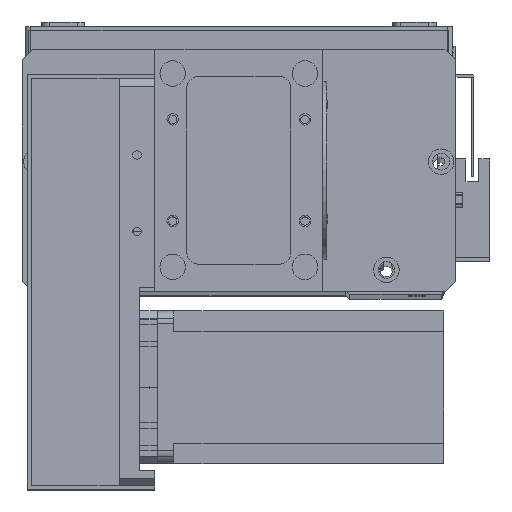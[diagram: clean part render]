
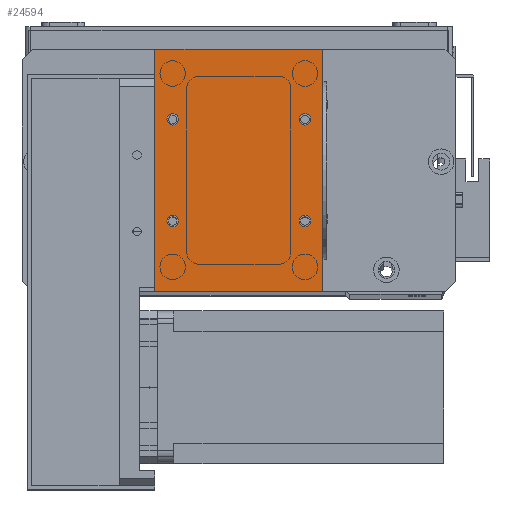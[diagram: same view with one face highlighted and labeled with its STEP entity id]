
A CAD part, top view. The second image highlights one B-rep face of the part: STEP entity #24594.
In plain terms, the highlighted planar face has unit normal (0, 0, 1).
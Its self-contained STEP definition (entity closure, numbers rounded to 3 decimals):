
#529 = VERTEX_POINT ( 'NONE', #24953 ) ;
#1394 = CARTESIAN_POINT ( 'NONE',  ( 56.75, 67.5, 2. ) ) ;
#1548 = FACE_OUTER_BOUND ( 'NONE', #21294, .T. ) ;
#1709 = DIRECTION ( 'NONE',  ( 1., 0., 0. ) ) ;
#2648 = ORIENTED_EDGE ( 'NONE', *, *, #17341, .F. ) ;
#3239 = AXIS2_PLACEMENT_3D ( 'NONE', #18030, #3357, #20490 ) ;
#3357 = DIRECTION ( 'NONE',  ( 0., 0., 1. ) ) ;
#3514 = CIRCLE ( 'NONE', #20501, 2.25 ) ;
#3669 = CARTESIAN_POINT ( 'NONE',  ( 59., 27.5, 2. ) ) ;
#4034 = EDGE_CURVE ( 'NONE', #30911, #5379, #14796, .T. ) ;
#4405 = ORIENTED_EDGE ( 'NONE', *, *, #13611, .F. ) ;
#4543 = CARTESIAN_POINT ( 'NONE',  ( 7., 67.5, 2. ) ) ;
#4552 = CARTESIAN_POINT ( 'NONE',  ( 7., 67.5, 2. ) ) ;
#4588 = AXIS2_PLACEMENT_3D ( 'NONE', #22930, #8265, #25395 ) ;
#5198 = DIRECTION ( 'NONE',  ( 0., 0., -1. ) ) ;
#5329 = EDGE_CURVE ( 'NONE', #26779, #18997, #18228, .T. ) ;
#5379 = VERTEX_POINT ( 'NONE', #18125 ) ;
#6128 = DIRECTION ( 'NONE',  ( 1., 0., 0. ) ) ;
#6927 = EDGE_CURVE ( 'NONE', #17379, #19901, #7745, .T. ) ;
#6976 = DIRECTION ( 'NONE',  ( 1., 0., 0. ) ) ;
#6987 = DIRECTION ( 'NONE',  ( 1., 0., 0. ) ) ;
#7082 = DIRECTION ( 'NONE',  ( 1., 0., 0. ) ) ;
#7508 = EDGE_CURVE ( 'NONE', #24089, #30911, #21469, .T. ) ;
#7745 = CIRCLE ( 'NONE', #14347, 2.25 ) ;
#8052 = FACE_BOUND ( 'NONE', #26315, .T. ) ;
#8083 = CARTESIAN_POINT ( 'NONE',  ( 4.75, 67.5, 2. ) ) ;
#8265 = DIRECTION ( 'NONE',  ( 0., 0., 1. ) ) ;
#8379 = VECTOR ( 'NONE', #29556, 1000. ) ;
#9544 = CARTESIAN_POINT ( 'NONE',  ( 0., 0., 2. ) ) ;
#10873 = LINE ( 'NONE', #9544, #29669 ) ;
#11169 = EDGE_CURVE ( 'NONE', #17738, #24089, #10873, .T. ) ;
#11554 = DIRECTION ( 'NONE',  ( 0., 0., 1. ) ) ;
#13611 = EDGE_CURVE ( 'NONE', #19818, #15406, #21125, .T. ) ;
#13714 = CARTESIAN_POINT ( 'NONE',  ( 61.25, 27.5, 2. ) ) ;
#14056 = VERTEX_POINT ( 'NONE', #25142 ) ;
#14121 = ORIENTED_EDGE ( 'NONE', *, *, #23822, .F. ) ;
#14315 = AXIS2_PLACEMENT_3D ( 'NONE', #4543, #21667, #6976 ) ;
#14347 = AXIS2_PLACEMENT_3D ( 'NONE', #4552, #21684, #6987 ) ;
#14527 = ORIENTED_EDGE ( 'NONE', *, *, #11169, .T. ) ;
#14572 = FACE_BOUND ( 'NONE', #18895, .T. ) ;
#14674 = DIRECTION ( 'NONE',  ( 0., 0., 1. ) ) ;
#14796 = LINE ( 'NONE', #25148, #27822 ) ;
#15053 = CARTESIAN_POINT ( 'NONE',  ( 56.75, 27.5, 2. ) ) ;
#15280 = CIRCLE ( 'NONE', #26686, 2.25 ) ;
#15334 = FACE_BOUND ( 'NONE', #19388, .T. ) ;
#15406 = VERTEX_POINT ( 'NONE', #13714 ) ;
#16195 = EDGE_LOOP ( 'NONE', ( #28870, #24117 ) ) ;
#16389 = DIRECTION ( 'NONE',  ( 0., 0., 1. ) ) ;
#17341 = EDGE_CURVE ( 'NONE', #19901, #17379, #24784, .T. ) ;
#17379 = VERTEX_POINT ( 'NONE', #29133 ) ;
#17738 = VERTEX_POINT ( 'NONE', #18317 ) ;
#17876 = DIRECTION ( 'NONE',  ( -1., 0., 0. ) ) ;
#18030 = CARTESIAN_POINT ( 'NONE',  ( 59., 67.5, 2. ) ) ;
#18100 = CARTESIAN_POINT ( 'NONE',  ( 66., 0., 2. ) ) ;
#18125 = CARTESIAN_POINT ( 'NONE',  ( 0., 95., 2. ) ) ;
#18228 = CIRCLE ( 'NONE', #3239, 2.25 ) ;
#18317 = CARTESIAN_POINT ( 'NONE',  ( 0., 0., 2. ) ) ;
#18895 = EDGE_LOOP ( 'NONE', ( #21062, #14121 ) ) ;
#18997 = VERTEX_POINT ( 'NONE', #1394 ) ;
#19115 = DIRECTION ( 'NONE',  ( 0., -1., 0. ) ) ;
#19388 = EDGE_LOOP ( 'NONE', ( #22763, #4405 ) ) ;
#19818 = VERTEX_POINT ( 'NONE', #15053 ) ;
#19835 = CARTESIAN_POINT ( 'NONE',  ( 66., 0., 2. ) ) ;
#19901 = VERTEX_POINT ( 'NONE', #8083 ) ;
#20383 = VECTOR ( 'NONE', #19115, 1000. ) ;
#20490 = DIRECTION ( 'NONE',  ( 1., 0., 0. ) ) ;
#20501 = AXIS2_PLACEMENT_3D ( 'NONE', #29353, #14674, #31839 ) ;
#20784 = DIRECTION ( 'NONE',  ( 0., 0., 1. ) ) ;
#21062 = ORIENTED_EDGE ( 'NONE', *, *, #5329, .F. ) ;
#21089 = ORIENTED_EDGE ( 'NONE', *, *, #6927, .F. ) ;
#21125 = CIRCLE ( 'NONE', #27536, 2.25 ) ;
#21294 = EDGE_LOOP ( 'NONE', ( #25718, #14527, #26522, #26432 ) ) ;
#21441 = AXIS2_PLACEMENT_3D ( 'NONE', #31095, #16389, #1709 ) ;
#21469 = LINE ( 'NONE', #19835, #8379 ) ;
#21649 = EDGE_CURVE ( 'NONE', #15406, #19818, #28897, .T. ) ;
#21667 = DIRECTION ( 'NONE',  ( 0., 0., 1. ) ) ;
#21684 = DIRECTION ( 'NONE',  ( 0., 0., 1. ) ) ;
#21949 = AXIS2_PLACEMENT_3D ( 'NONE', #24781, #5198, #29711 ) ;
#22385 = EDGE_CURVE ( 'NONE', #14056, #529, #29994, .T. ) ;
#22763 = ORIENTED_EDGE ( 'NONE', *, *, #21649, .F. ) ;
#22930 = CARTESIAN_POINT ( 'NONE',  ( 59., 27.5, 2. ) ) ;
#23720 = EDGE_CURVE ( 'NONE', #5379, #17738, #26890, .T. ) ;
#23822 = EDGE_CURVE ( 'NONE', #18997, #26779, #3514, .T. ) ;
#23882 = CARTESIAN_POINT ( 'NONE',  ( 0., 0., 2. ) ) ;
#24089 = VERTEX_POINT ( 'NONE', #18100 ) ;
#24117 = ORIENTED_EDGE ( 'NONE', *, *, #22385, .F. ) ;
#24519 = CARTESIAN_POINT ( 'NONE',  ( 61.25, 67.5, 2. ) ) ;
#24594 = ADVANCED_FACE ( 'NONE', ( #8052, #14572, #15334, #27598, #1548 ), #27246, .F. ) ;
#24781 = CARTESIAN_POINT ( 'NONE',  ( 0., 0., 2. ) ) ;
#24784 = CIRCLE ( 'NONE', #14315, 2.25 ) ;
#24953 = CARTESIAN_POINT ( 'NONE',  ( 9.25, 27.5, 2. ) ) ;
#25142 = CARTESIAN_POINT ( 'NONE',  ( 4.75, 27.5, 2. ) ) ;
#25148 = CARTESIAN_POINT ( 'NONE',  ( 0., 95., 2. ) ) ;
#25314 = CARTESIAN_POINT ( 'NONE',  ( 66., 95., 2. ) ) ;
#25395 = DIRECTION ( 'NONE',  ( 1., 0., 0. ) ) ;
#25521 = EDGE_CURVE ( 'NONE', #529, #14056, #15280, .T. ) ;
#25718 = ORIENTED_EDGE ( 'NONE', *, *, #23720, .T. ) ;
#26259 = CARTESIAN_POINT ( 'NONE',  ( 7., 27.5, 2. ) ) ;
#26315 = EDGE_LOOP ( 'NONE', ( #21089, #2648 ) ) ;
#26432 = ORIENTED_EDGE ( 'NONE', *, *, #4034, .T. ) ;
#26522 = ORIENTED_EDGE ( 'NONE', *, *, #7508, .T. ) ;
#26686 = AXIS2_PLACEMENT_3D ( 'NONE', #26259, #11554, #28713 ) ;
#26779 = VERTEX_POINT ( 'NONE', #24519 ) ;
#26890 = LINE ( 'NONE', #23882, #20383 ) ;
#27246 = PLANE ( 'NONE',  #21949 ) ;
#27536 = AXIS2_PLACEMENT_3D ( 'NONE', #3669, #20784, #6128 ) ;
#27598 = FACE_BOUND ( 'NONE', #16195, .T. ) ;
#27822 = VECTOR ( 'NONE', #17876, 1000. ) ;
#28713 = DIRECTION ( 'NONE',  ( 1., 0., 0. ) ) ;
#28870 = ORIENTED_EDGE ( 'NONE', *, *, #25521, .F. ) ;
#28897 = CIRCLE ( 'NONE', #4588, 2.25 ) ;
#29133 = CARTESIAN_POINT ( 'NONE',  ( 9.25, 67.5, 2. ) ) ;
#29353 = CARTESIAN_POINT ( 'NONE',  ( 59., 67.5, 2. ) ) ;
#29556 = DIRECTION ( 'NONE',  ( 0., 1., 0. ) ) ;
#29669 = VECTOR ( 'NONE', #7082, 1000. ) ;
#29711 = DIRECTION ( 'NONE',  ( -1., 0., 0. ) ) ;
#29994 = CIRCLE ( 'NONE', #21441, 2.25 ) ;
#30911 = VERTEX_POINT ( 'NONE', #25314 ) ;
#31095 = CARTESIAN_POINT ( 'NONE',  ( 7., 27.5, 2. ) ) ;
#31839 = DIRECTION ( 'NONE',  ( 1., 0., 0. ) ) ;
